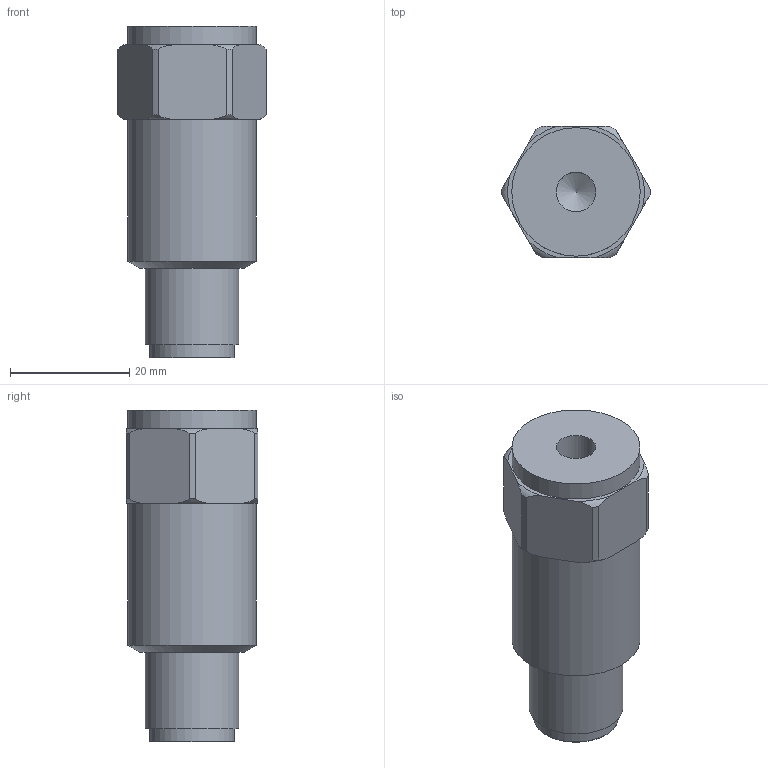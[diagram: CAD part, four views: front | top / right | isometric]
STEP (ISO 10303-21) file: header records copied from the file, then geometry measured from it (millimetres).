
FILE_DESCRIPTION(/* description */ (''),/* implementation_level */ '2;1');
FILE_NAME(/* name */ 'D:\Users\rskowron\Desktop\CUSTOMERMODEL\AS-063\D-001351.stp',/* time_stamp */ '2018-12-07T09:25:54+01:00',/* author */ ('rskowron'),/* organization */ (''),/* preprocessor_version */ 'ST-DEVELOPER v16.13',/* originating_system */ 'Autodesk Inventor 2018',/* authorisation */ '');
FILE_SCHEMA (('AUTOMOTIVE_DESIGN { 1 0 10303 214 3 1 1 }'));
Length unit declared in the file: millimetre
Products named in the file (1): D-001350
Bounding box: 24.8 x 22.05 x 55.5 mm (x, y, z)
Volume: 16310.9 mm3; surface area: 5145.1 mm2
Topology: 1 solids, 1 shells, 51 faces, 120 edges, 78 vertices
Faces by surface type: plane 20, cylinder 14, torus 14, cone 3
Full cylindrical faces by diameter (mm): 1.5 x2, 6.647 x1, 11.5 x1, 14.2 x1, 15.73 x1, 21.5 x2
Entity records: 1491 total; most frequent: CARTESIAN_POINT 351, DIRECTION 230, ORIENTED_EDGE 208, EDGE_CURVE 104, AXIS2_PLACEMENT_3D 98, VERTEX_POINT 75, EDGE_LOOP 71, FACE_OUTER_BOUND 51
